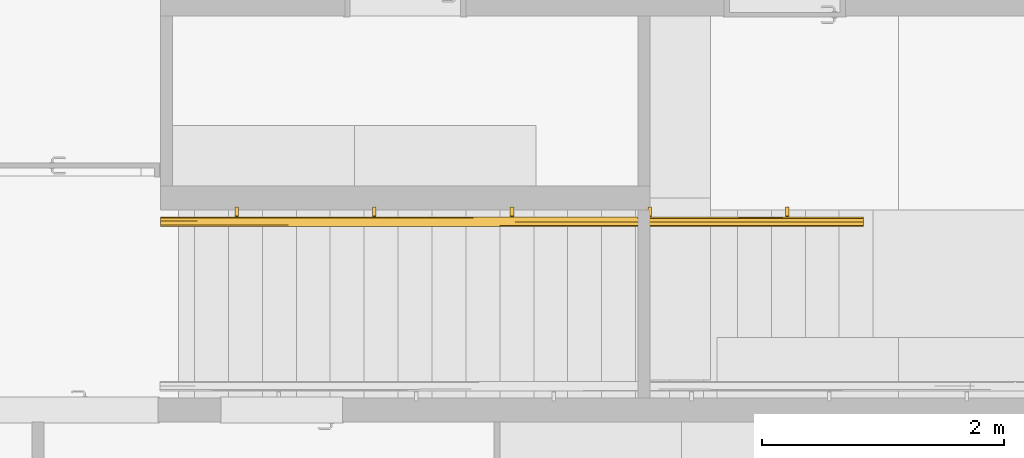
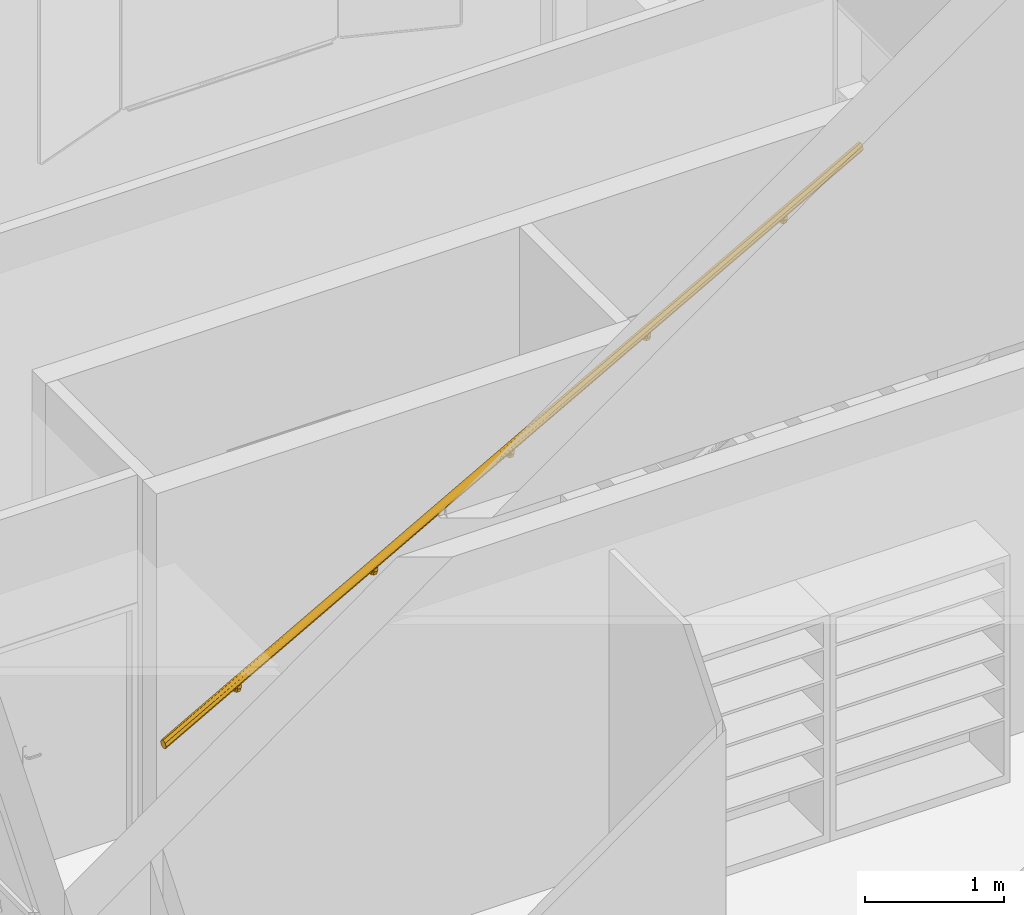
# One storey, part 110 of 137: 1 railing, 1 element without a shape of its own.
"""IFC2X3 building model written with IfcOpenShell, lengths in centimetres."""

from ifc_helpers import new_model, entity, si_unit, converted_unit, derived_unit, direction, frame, origin, place, context, subcontext, project, spatial, faceted_brep, material, element, aggregate, save


model = new_model("IFC2X3")

# Units and contexts
model_context = context("Model", 3, precision=0.001, world=origin(), true_north=direction((6.12303176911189e-17, 1.0)))
body_context = subcontext(model_context, "Body", "Model", "MODEL_VIEW")
ifc_project = project(units=[si_unit("LENGTHUNIT", "METRE", prefix="CENTI"), si_unit("AREAUNIT", "SQUARE_METRE"), si_unit("VOLUMEUNIT", "CUBIC_METRE"), converted_unit("PLANEANGLEUNIT", "DEGREE", entity("IfcRatioMeasure", 0.0174532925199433), si_unit("PLANEANGLEUNIT", "RADIAN"), dimensions=[0, 0, 0, 0, 0, 0, 0]), si_unit("MASSUNIT", "GRAM", prefix="KILO"), si_unit("TIMEUNIT", "SECOND"), si_unit("FREQUENCYUNIT", "HERTZ"), si_unit("THERMODYNAMICTEMPERATUREUNIT", "DEGREE_CELSIUS"), derived_unit("THERMALTRANSMITTANCEUNIT", [(si_unit("MASSUNIT", "GRAM", prefix="KILO"), 1), (si_unit("THERMODYNAMICTEMPERATUREUNIT", "KELVIN"), -1), (si_unit("TIMEUNIT", "SECOND"), -3)]), derived_unit("VOLUMETRICFLOWRATEUNIT", [(si_unit("LENGTHUNIT", "METRE"), 3), (si_unit("TIMEUNIT", "SECOND"), -1)]), si_unit("ELECTRICCURRENTUNIT", "AMPERE"), si_unit("ELECTRICVOLTAGEUNIT", "VOLT"), si_unit("POWERUNIT", "WATT"), si_unit("FORCEUNIT", "NEWTON", prefix="KILO"), si_unit("ILLUMINANCEUNIT", "LUX"), si_unit("LUMINOUSFLUXUNIT", "LUMEN"), si_unit("LUMINOUSINTENSITYUNIT", "CANDELA"), derived_unit("USERDEFINED", [(si_unit("MASSUNIT", "GRAM", prefix="KILO"), -1), (si_unit("LENGTHUNIT", "METRE"), -2), (si_unit("TIMEUNIT", "SECOND"), 3), (si_unit("LUMINOUSFLUXUNIT", "LUMEN"), 1)]), derived_unit("LINEARVELOCITYUNIT", [(si_unit("LENGTHUNIT", "METRE"), 1), (si_unit("TIMEUNIT", "SECOND"), -1)]), si_unit("PRESSUREUNIT", "PASCAL"), derived_unit("USERDEFINED", [(si_unit("LENGTHUNIT", "METRE"), -2), (si_unit("MASSUNIT", "GRAM", prefix="KILO"), 1), (si_unit("TIMEUNIT", "SECOND"), -2)])], contexts=[model_context])

# Site, building, storey
site_placement = place(None, frame((8.62739174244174, -249.285249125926, 0.0)))
site = spatial("IfcSite", under=ifc_project, at=site_placement, Name="Default", CompositionType="ELEMENT")
building_placement = place(site_placement, origin())
building = spatial("IfcBuilding", under=site, at=building_placement, CompositionType="ELEMENT")
storey_placement = place(building_placement, origin())
storey = spatial("IfcBuildingStorey", under=building, at=storey_placement, Name="RDC", CompositionType="ELEMENT", Elevation=-8.82465566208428e-11)

# Stair, railing
stair_placement = place(storey_placement, origin())
stair = element("IfcStair", 1, at=stair_placement, inside=storey, Name="Escalier:Monobloc", ObjectType="Escalier:Monobloc", ShapeType="NOTDEFINED")
ifc_material = material(Name="Pin (1)")
railing_placement = place(stair_placement, frame((3219.90482780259, 4844.25975743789, 102.016475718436)))
railing = element("IfcRailing", 2, at=railing_placement, material=ifc_material, Name="Garde-corps:Au Mur", ObjectType="Garde-corps:Au Mur", PredefinedType="NOTDEFINED", context=body_context, shape_type="Brep", body=[
    faceted_brep([(0.0, 1.48300479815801, 6.12618436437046), (0.0, 3.03032293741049, 6.55776332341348), (0.0, 4.57764107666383, 6.98934228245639), (0.0, 5.98661813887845, 6.29103285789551), (0.0, 7.39559520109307, 5.59272343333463), (0.0, 7.77756121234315, 4.58357909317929), (0.0, 8.15952722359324, 3.574434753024), (0.0, 7.49778843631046, 2.29855994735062), (0.0, 6.83604964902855, 1.02268514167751), (0.0, 5.28873150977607, 0.591106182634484), (0.0, 4.51507244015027, 0.37531670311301), (0.0, 3.74141337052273, 0.15952722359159), (0.0, 2.33243630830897, 0.857836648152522), (0.0, 0.923459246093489, 1.55614607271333), (0.0, 0.541493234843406, 2.56529041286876), (0.0, 0.159527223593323, 3.57443475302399), (0.0, 0.821266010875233, 4.85030955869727), (580.000047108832, 0.821266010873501, 325.253103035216), (580.000047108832, 1.48300479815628, 323.977228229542), (580.000047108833, 3.03032293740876, 323.5456492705), (580.000047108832, 4.5776410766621, 323.114070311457), (580.000047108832, 5.98661813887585, 323.812379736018), (580.000047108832, 7.39559520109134, 324.510689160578), (580.000047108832, 7.77756121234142, 325.519833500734), (580.000047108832, 8.1595272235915, 326.528977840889), (580.000047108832, 7.71105130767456, 327.393668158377), (580.000047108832, 7.49778843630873, 327.804852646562), (580.000047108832, 6.83604964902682, 329.080727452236), (580.000047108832, 5.28873150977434, 329.512306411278), (580.000047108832, 3.741413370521, 329.943885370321), (580.000047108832, 3.03692483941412, 329.594730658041), (580.000047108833, 2.33243630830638, 329.24557594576), (580.000047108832, 0.923459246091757, 328.5472665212), (580.000047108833, 0.541493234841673, 327.538122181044), (580.000047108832, 0.15952722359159, 326.528977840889), (290.587502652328, 7.89040365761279, 164.140613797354), (305.056543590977, 5.66621049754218, 170.254634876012), (307.609624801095, 6.6335124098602, 172.158878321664), (242.211865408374, 7.39501203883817, 136.423415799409), (260.804168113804, 8.1595272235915, 148.794924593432), (316.841951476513, 2.00182631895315, 177.106473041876), (253.293381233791, 3.01589151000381, 141.322398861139), (290.053877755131, 4.15912541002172, 161.647975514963), (294.45843339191, 1.16093051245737, 165.261673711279), (271.536521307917, 0.554323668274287, 153.283428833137), (319.195437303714, 0.15952722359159, 181.308242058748), (319.19541562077, 8.15952722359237, 181.308229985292), (278.105395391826, 0.355436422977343, 159.489996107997), (263.055246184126, 0.819007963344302, 151.937092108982), (326.577103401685, 1.55697466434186, 188.026011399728), (289.952188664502, 2.53317450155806, 168.162155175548), (265.990192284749, 7.72407485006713, 153.240593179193), (252.779019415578, 8.05239554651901, 145.115746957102), (276.124131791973, 4.03803104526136, 160.757491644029), (271.477204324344, 5.14868303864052, 158.064937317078), (282.425818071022, 7.08741368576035, 163.173763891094), (336.778287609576, 6.1662878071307, 194.069020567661)], [[[0, 1, 2, 3, 4, 5, 6, 7, 8, 9, 10, 11, 12, 13, 14, 15, 16]], [[17, 18, 19, 20, 21, 22, 23, 24, 25, 26, 27, 28, 29, 30, 31, 32, 33, 34]], [[35, 7, 6]], [[9, 8, 36, 10]], [[22, 37, 38]], [[37, 36, 8]], [[21, 36, 37]], [[39, 35, 6]], [[40, 41, 19]], [[38, 7, 35]], [[19, 41, 42]], [[43, 40, 18]], [[13, 44, 14]], [[8, 38, 37]], [[43, 12, 40]], [[38, 8, 7]], [[11, 42, 41]], [[17, 34, 45]], [[35, 23, 22]], [[11, 10, 42]], [[23, 39, 46, 24]], [[21, 37, 22]], [[36, 21, 20]], [[36, 20, 42]], [[36, 42, 10]], [[42, 20, 19]], [[41, 12, 11]], [[12, 41, 40]], [[13, 12, 43]], [[18, 40, 19]], [[45, 15, 14]], [[43, 18, 17]], [[17, 44, 43]], [[38, 35, 22]], [[44, 17, 45]], [[23, 35, 39]], [[43, 44, 13]], [[14, 44, 45]], [[16, 47, 48]], [[0, 48, 49]], [[49, 31, 50]], [[31, 30, 50]], [[51, 25, 52]], [[2, 53, 54]], [[55, 27, 26]], [[55, 51, 4]], [[25, 51, 26]], [[47, 16, 15]], [[55, 26, 51]], [[5, 4, 51]], [[25, 24, 46]], [[56, 55, 3]], [[56, 3, 54]], [[50, 0, 49]], [[27, 55, 56]], [[52, 46, 39, 6]], [[54, 53, 28]], [[55, 4, 3]], [[56, 28, 27]], [[28, 56, 54]], [[29, 28, 53]], [[2, 54, 3]], [[30, 29, 53]], [[53, 2, 1]], [[1, 0, 50]], [[53, 50, 30]], [[1, 50, 53]], [[49, 32, 31]], [[32, 49, 48]], [[5, 51, 52]], [[33, 48, 47]], [[16, 48, 0]], [[34, 33, 45]], [[33, 32, 48]], [[47, 45, 33]], [[45, 47, 15]], [[5, 52, 6]], [[46, 52, 25]]]),
    faceted_brep([(64.3409945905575, 4.9595272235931, 35.5500932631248), (61.3409945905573, 4.9595272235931, 35.5500932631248), (61.3409945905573, 3.35952722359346, 35.5500932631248), (64.3409945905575, 3.35952722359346, 35.5500932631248), (64.3409945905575, 4.9595272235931, 31.0500932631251), (61.3409945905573, 4.9595272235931, 31.0500932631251), (61.3409945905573, 5.42202722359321, 30.2490197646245), (61.3409945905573, 5.88452722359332, 29.4479462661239), (61.3409945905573, 6.34702722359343, 28.6468727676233), (61.3409945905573, 6.80952722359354, 27.8457992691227), (61.3409945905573, 7.56806772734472, 27.6425489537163), (61.3409945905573, 8.65952722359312, 27.3500932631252), (61.3409945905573, 16.2204507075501, 27.3500932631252), (61.3409945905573, 16.2204507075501, 25.7500932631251), (61.3409945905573, 8.65952722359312, 25.7500932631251), (61.3409945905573, 7.77743767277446, 26.1154667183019), (61.3409945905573, 6.8953481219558, 26.4808401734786), (61.3409945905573, 5.90360470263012, 26.8916337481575), (61.3409945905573, 4.91186128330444, 27.3024273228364), (61.3409945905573, 4.52377776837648, 28.2393438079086), (61.3409945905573, 4.13569425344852, 29.1762602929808), (61.3409945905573, 3.74761073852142, 30.113176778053), (61.3409945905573, 3.35952722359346, 31.0500932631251), (64.3409945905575, 3.35952722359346, 31.0500932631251), (64.3409945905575, 3.72490055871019, 30.1680040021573), (64.3409945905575, 4.13569425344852, 29.1762602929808), (64.3409945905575, 4.52377776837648, 28.2393438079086), (64.3409945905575, 4.91186128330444, 27.3024273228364), (64.3409945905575, 5.84877776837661, 26.9143438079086), (64.3409945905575, 6.78569425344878, 26.5262602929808), (64.3409945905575, 7.72261073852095, 26.138176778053), (64.3409945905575, 8.65952722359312, 25.7500932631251), (64.3409945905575, 16.2204507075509, 25.7500932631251), (64.3409945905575, 16.2204507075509, 27.3500932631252), (64.3409945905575, 8.65952722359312, 27.3500932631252), (64.3409945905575, 7.85845372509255, 27.8125932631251), (64.3409945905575, 7.05738022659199, 28.2750932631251), (64.3409945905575, 6.25630672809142, 28.7375932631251), (64.3409945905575, 5.45523322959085, 29.2000932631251), (64.3409945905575, 5.20738022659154, 30.1250932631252)], [[[0, 1, 2, 3]], [[1, 0, 4, 5]], [[5, 6, 7, 8, 9, 10, 11, 12, 13, 14, 15, 16, 17, 18, 19, 20, 21, 22, 2, 1]], [[3, 2, 22, 23]], [[3, 23, 24, 25, 26, 27, 28, 29, 30, 31, 32, 33, 34, 35, 36, 37, 38, 39, 4, 0]], [[7, 6, 39]], [[37, 8, 38]], [[8, 37, 9]], [[6, 5, 4]], [[35, 10, 36]], [[10, 35, 11]], [[39, 6, 4]], [[38, 8, 7]], [[37, 36, 9]], [[39, 38, 7]], [[9, 36, 10]], [[35, 34, 11]], [[24, 23, 22, 21, 20, 19, 18, 27, 26, 25]], [[27, 18, 17, 16, 15, 14, 31, 30, 29, 28]], [[13, 12, 33, 32]], [[11, 34, 33, 12]], [[31, 14, 13, 32]]]),
    faceted_brep([(177.920509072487, 4.95952722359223, 98.7932264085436), (174.920509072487, 4.95952722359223, 98.7932264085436), (174.920509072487, 3.3595272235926, 98.7932264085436), (177.920509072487, 3.3595272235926, 98.7932264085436), (177.920509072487, 4.95952722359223, 94.293226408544), (174.920509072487, 4.95952722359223, 94.293226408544), (174.920509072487, 5.42202722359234, 93.4921529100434), (174.920509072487, 5.88452722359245, 92.6910794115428), (174.920509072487, 6.34702722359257, 91.8900059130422), (174.920509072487, 6.80952722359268, 91.0889324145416), (174.920509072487, 7.56806772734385, 90.8856820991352), (174.920509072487, 8.65952722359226, 90.593226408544), (174.920509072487, 16.2204507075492, 90.593226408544), (174.920509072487, 16.2204507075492, 88.993226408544), (174.920509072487, 8.65952722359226, 88.993226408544), (174.920509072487, 7.7774376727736, 89.3585998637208), (174.920509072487, 6.89534812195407, 89.7239733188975), (174.920509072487, 5.90360470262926, 90.1347668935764), (174.920509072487, 4.91186128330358, 90.5455604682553), (174.920509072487, 4.52377776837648, 91.4824769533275), (174.920509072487, 4.13569425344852, 92.4193934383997), (174.920509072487, 3.74761073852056, 93.3563099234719), (174.920509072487, 3.3595272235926, 94.293226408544), (177.920509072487, 3.3595272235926, 94.293226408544), (177.920509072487, 3.72490055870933, 93.4111371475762), (177.920509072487, 4.13569425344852, 92.4193934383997), (177.920509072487, 4.52377776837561, 91.4824769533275), (177.920509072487, 4.91186128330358, 90.5455604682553), (177.920509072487, 5.84877776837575, 90.1574769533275), (177.920509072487, 6.78569425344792, 89.7693934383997), (177.920509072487, 7.72261073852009, 89.3813099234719), (177.920509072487, 8.65952722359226, 88.993226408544), (177.920509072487, 16.2204507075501, 88.993226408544), (177.920509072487, 16.2204507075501, 90.593226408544), (177.920509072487, 8.65952722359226, 90.593226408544), (177.920509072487, 7.85845372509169, 91.055726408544), (177.920509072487, 7.05738022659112, 91.518226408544), (177.920509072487, 6.25630672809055, 91.9807264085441), (177.920509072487, 5.45523322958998, 92.443226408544), (177.920509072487, 5.20738022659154, 93.368226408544)], [[[0, 1, 2, 3]], [[1, 0, 4, 5]], [[5, 6, 7, 8, 9, 10, 11, 12, 13, 14, 15, 16, 17, 18, 19, 20, 21, 22, 2, 1]], [[3, 2, 22, 23]], [[3, 23, 24, 25, 26, 27, 28, 29, 30, 31, 32, 33, 34, 35, 36, 37, 38, 39, 4, 0]], [[7, 6, 39]], [[37, 8, 38]], [[8, 37, 9]], [[6, 5, 4]], [[35, 10, 36]], [[10, 35, 11]], [[39, 6, 4]], [[38, 8, 7]], [[37, 36, 9]], [[39, 38, 7]], [[9, 36, 10]], [[35, 34, 11]], [[24, 23, 22, 21, 20, 19, 18, 27, 26, 25]], [[27, 18, 17, 16, 15, 14, 31, 30, 29, 28]], [[13, 12, 33, 32]], [[11, 34, 33, 12]], [[31, 14, 13, 32]]]),
    faceted_brep([(291.500023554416, 4.95952722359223, 162.036359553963), (288.500023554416, 4.95952722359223, 162.036359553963), (288.500023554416, 3.3595272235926, 162.036359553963), (291.500023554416, 3.3595272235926, 162.036359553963), (291.500023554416, 4.95952722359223, 157.536359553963), (288.500023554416, 4.95952722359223, 157.536359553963), (288.500023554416, 5.42202722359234, 156.735286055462), (288.500023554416, 5.88452722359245, 155.934212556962), (288.500023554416, 6.34702722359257, 155.133139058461), (288.500023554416, 6.80952722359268, 154.33206555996), (288.500023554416, 7.56806772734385, 154.128815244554), (288.500023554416, 8.65952722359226, 153.836359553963), (288.500023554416, 16.2204507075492, 153.836359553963), (288.500023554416, 16.2204507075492, 152.236359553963), (288.500023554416, 8.65952722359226, 152.236359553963), (288.500023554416, 7.7774376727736, 152.60173300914), (288.500023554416, 6.89534812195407, 152.967106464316), (288.500023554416, 5.90360470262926, 153.377900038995), (288.500023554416, 4.91186128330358, 153.788693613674), (288.500023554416, 4.52377776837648, 154.725610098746), (288.500023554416, 4.13569425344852, 155.662526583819), (288.500023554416, 3.74761073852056, 156.599443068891), (288.500023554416, 3.3595272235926, 157.536359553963), (291.500023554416, 3.3595272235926, 157.536359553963), (291.500023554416, 3.72490055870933, 156.654270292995), (291.500023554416, 4.13569425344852, 155.662526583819), (291.500023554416, 4.52377776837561, 154.725610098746), (291.500023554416, 4.91186128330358, 153.788693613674), (291.500023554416, 5.84877776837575, 153.400610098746), (291.500023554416, 6.78569425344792, 153.012526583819), (291.500023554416, 7.72261073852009, 152.624443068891), (291.500023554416, 8.65952722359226, 152.236359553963), (291.500023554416, 16.2204507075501, 152.236359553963), (291.500023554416, 16.2204507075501, 153.836359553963), (291.500023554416, 8.65952722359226, 153.836359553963), (291.500023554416, 7.85845372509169, 154.298859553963), (291.500023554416, 7.05738022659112, 154.761359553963), (291.500023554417, 6.25630672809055, 155.223859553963), (291.500023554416, 5.45523322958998, 155.686359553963), (291.500023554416, 5.20738022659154, 156.611359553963)], [[[0, 1, 2, 3]], [[1, 0, 4, 5]], [[5, 6, 7, 8, 9, 10, 11, 12, 13, 14, 15, 16, 17, 18, 19, 20, 21, 22, 2, 1]], [[3, 2, 22, 23]], [[3, 23, 24, 25, 26, 27, 28, 29, 30, 31, 32, 33, 34, 35, 36, 37, 38, 39, 4, 0]], [[7, 6, 39]], [[37, 8, 38]], [[8, 37, 9]], [[6, 5, 4]], [[35, 10, 36]], [[10, 35, 11]], [[39, 6, 4]], [[38, 8, 7]], [[37, 36, 9]], [[39, 38, 7]], [[9, 36, 10]], [[35, 34, 11]], [[24, 23, 22, 21, 20, 19, 18, 27, 26, 25]], [[27, 18, 17, 16, 15, 14, 31, 30, 29, 28]], [[13, 12, 33, 32]], [[11, 34, 33, 12]], [[31, 14, 13, 32]]]),
    faceted_brep([(405.079538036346, 4.95952722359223, 225.279492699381), (402.079538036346, 4.95952722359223, 225.279492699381), (402.079538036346, 3.3595272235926, 225.279492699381), (405.079538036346, 3.3595272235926, 225.279492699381), (405.079538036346, 4.95952722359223, 220.779492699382), (402.079538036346, 4.95952722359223, 220.779492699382), (402.079538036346, 5.42202722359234, 219.978419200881), (402.079538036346, 5.88452722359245, 219.177345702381), (402.079538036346, 6.34702722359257, 218.37627220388), (402.079538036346, 6.80952722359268, 217.575198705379), (402.079538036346, 7.56806772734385, 217.371948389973), (402.079538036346, 8.65952722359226, 217.079492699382), (402.079538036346, 16.2204507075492, 217.079492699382), (402.079538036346, 16.2204507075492, 215.479492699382), (402.079538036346, 8.65952722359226, 215.479492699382), (402.079538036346, 7.7774376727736, 215.844866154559), (402.079538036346, 6.89534812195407, 216.210239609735), (402.079538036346, 5.90360470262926, 216.621033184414), (402.079538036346, 4.91186128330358, 217.031826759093), (402.079538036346, 4.52377776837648, 217.968743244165), (402.079538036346, 4.13569425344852, 218.905659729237), (402.079538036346, 3.74761073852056, 219.84257621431), (402.079538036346, 3.3595272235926, 220.779492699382), (405.079538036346, 3.3595272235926, 220.779492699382), (405.079538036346, 3.72490055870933, 219.897403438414), (405.079538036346, 4.13569425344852, 218.905659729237), (405.079538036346, 4.52377776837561, 217.968743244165), (405.079538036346, 4.91186128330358, 217.031826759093), (405.079538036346, 5.84877776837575, 216.643743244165), (405.079538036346, 6.78569425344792, 216.255659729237), (405.079538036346, 7.72261073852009, 215.86757621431), (405.079538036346, 8.65952722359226, 215.479492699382), (405.079538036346, 16.2204507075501, 215.479492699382), (405.079538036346, 16.2204507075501, 217.079492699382), (405.079538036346, 8.65952722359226, 217.079492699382), (405.079538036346, 7.85845372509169, 217.541992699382), (405.079538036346, 7.05738022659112, 218.004492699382), (405.079538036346, 6.25630672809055, 218.466992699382), (405.079538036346, 5.45523322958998, 218.929492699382), (405.079538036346, 5.20738022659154, 219.854492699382)], [[[0, 1, 2, 3]], [[1, 0, 4, 5]], [[5, 6, 7, 8, 9, 10, 11, 12, 13, 14, 15, 16, 17, 18, 19, 20, 21, 22, 2, 1]], [[3, 2, 22, 23]], [[3, 23, 24, 25, 26, 27, 28, 29, 30, 31, 32, 33, 34, 35, 36, 37, 38, 39, 4, 0]], [[7, 6, 39]], [[37, 8, 38]], [[8, 37, 9]], [[6, 5, 4]], [[35, 10, 36]], [[10, 35, 11]], [[39, 6, 4]], [[38, 8, 7]], [[37, 36, 9]], [[39, 38, 7]], [[9, 36, 10]], [[35, 34, 11]], [[24, 23, 22, 21, 20, 19, 18, 27, 26, 25]], [[27, 18, 17, 16, 15, 14, 31, 30, 29, 28]], [[13, 12, 33, 32]], [[11, 34, 33, 12]], [[31, 14, 13, 32]]]),
    faceted_brep([(518.659052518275, 4.95952722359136, 288.5226258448), (515.659052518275, 4.95952722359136, 288.5226258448), (515.659052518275, 3.35952722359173, 288.5226258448), (518.659052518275, 3.35952722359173, 288.5226258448), (518.659052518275, 4.95952722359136, 284.022625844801), (515.659052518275, 4.95952722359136, 284.022625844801), (515.659052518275, 5.42202722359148, 283.2215523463), (515.659052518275, 5.88452722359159, 282.4204788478), (515.659052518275, 6.3470272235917, 281.619405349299), (515.659052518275, 6.80952722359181, 280.818331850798), (515.659052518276, 7.56806772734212, 280.615081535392), (515.659052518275, 8.65952722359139, 280.322625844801), (515.659052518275, 16.2204507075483, 280.322625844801), (515.659052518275, 16.2204507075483, 278.722625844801), (515.659052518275, 8.65952722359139, 278.722625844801), (515.659052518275, 7.77743767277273, 279.087999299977), (515.659052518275, 6.89534812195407, 279.453372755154), (515.659052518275, 5.90360470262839, 279.864166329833), (515.659052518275, 4.91186128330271, 280.274959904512), (515.659052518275, 4.52377776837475, 281.211876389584), (515.659052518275, 4.13569425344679, 282.148792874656), (515.659052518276, 3.74761073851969, 283.085709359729), (515.659052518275, 3.35952722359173, 284.022625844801), (518.659052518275, 3.35952722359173, 284.022625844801), (518.659052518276, 3.72490055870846, 283.140536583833), (518.659052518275, 4.13569425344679, 282.148792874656), (518.659052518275, 4.52377776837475, 281.211876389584), (518.659052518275, 4.91186128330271, 280.274959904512), (518.659052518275, 5.84877776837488, 279.886876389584), (518.659052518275, 6.78569425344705, 279.498792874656), (518.659052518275, 7.72261073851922, 279.110709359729), (518.659052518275, 8.65952722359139, 278.722625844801), (518.659052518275, 16.2204507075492, 278.722625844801), (518.659052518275, 16.2204507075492, 280.322625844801), (518.659052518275, 8.65952722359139, 280.322625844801), (518.659052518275, 7.85845372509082, 280.785125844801), (518.659052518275, 7.05738022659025, 281.247625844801), (518.659052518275, 6.25630672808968, 281.710125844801), (518.659052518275, 5.45523322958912, 282.172625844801), (518.659052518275, 5.20738022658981, 283.097625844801)], [[[0, 1, 2, 3]], [[1, 0, 4, 5]], [[5, 6, 7, 8, 9, 10, 11, 12, 13, 14, 15, 16, 17, 18, 19, 20, 21, 22, 2, 1]], [[3, 2, 22, 23]], [[3, 23, 24, 25, 26, 27, 28, 29, 30, 31, 32, 33, 34, 35, 36, 37, 38, 39, 4, 0]], [[7, 6, 39]], [[37, 8, 38]], [[8, 37, 9]], [[6, 5, 4]], [[35, 10, 36]], [[10, 35, 11]], [[39, 6, 4]], [[38, 8, 7]], [[37, 36, 9]], [[39, 38, 7]], [[9, 36, 10]], [[35, 34, 11]], [[24, 23, 22, 21, 20, 19, 18, 27, 26, 25]], [[27, 18, 17, 16, 15, 14, 31, 30, 29, 28]], [[13, 12, 33, 32]], [[11, 34, 33, 12]], [[31, 14, 13, 32]]]),
])
aggregate(stair, [railing])

save(model, "model.ifc")
